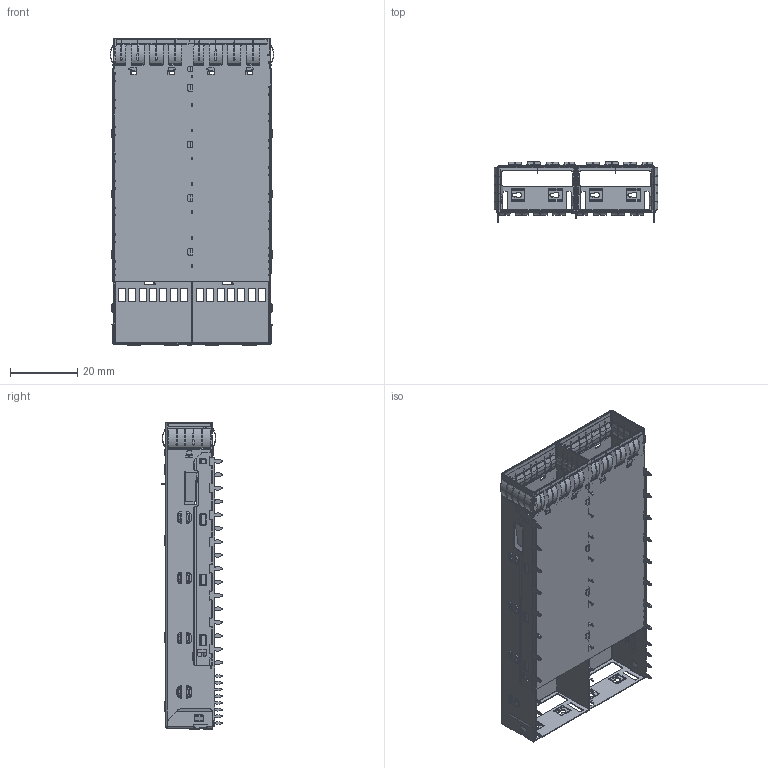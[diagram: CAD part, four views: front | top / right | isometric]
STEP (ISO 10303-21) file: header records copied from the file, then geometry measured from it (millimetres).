
FILE_DESCRIPTION((''),'2;1');
FILE_NAME('1757762054_1_1_1_1_1_1_1_1_1__1','2026-06-25T09:50:49',('39002408'),(''),'CREO PARAMETRIC BY PTC INC, 2019471','CREO PARAMETRIC BY PTC INC, 2019471','');
FILE_SCHEMA(('CONFIG_CONTROL_DESIGN'));
Products named in the file (1): 1757762054_1_1_1_1_1_1_1_1_1__1
Bounding box: 48.68 x 18.15 x 91.42 mm (x, y, z)
Volume: 3197.3 mm3; surface area: 28460.6 mm2
Topology: 1 solids, 1 shells, 4963 faces, 14107 edges, 8890 vertices
Faces by surface type: plane 2293, cylinder 2016, bspline 549, cone 64, torus 41
Entity records: 179599 total; most frequent: CARTESIAN_POINT 51394, ORIENTED_EDGE 28214, DIRECTION 25316, EDGE_CURVE 14107, VECTOR 8900, LINE 8900, VERTEX_POINT 8890, AXIS2_PLACEMENT_3D 8208
